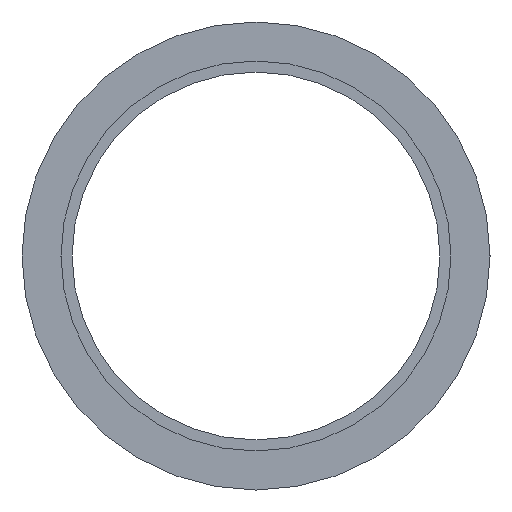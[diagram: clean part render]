
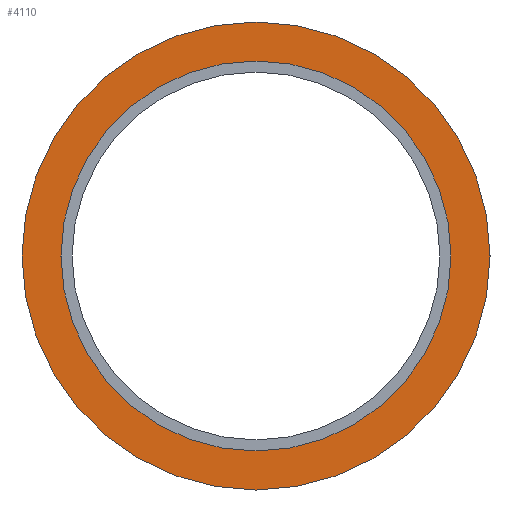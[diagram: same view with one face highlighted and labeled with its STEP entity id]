
A CAD part, left-side view. The second image highlights one B-rep face of the part: STEP entity #4110.
In plain terms, the highlighted planar face has unit normal (-1, 0, 0).
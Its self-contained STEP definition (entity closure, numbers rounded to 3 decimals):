
#100=CARTESIAN_POINT('',(53.476,18.345,0.));
#110=VERTEX_POINT('',#100);
#290=CARTESIAN_POINT('',(53.476,79.845,0.
));
#300=VERTEX_POINT('',#290);
#330=CARTESIAN_POINT('',(53.476,49.095,0.));
#340=DIRECTION('',(1.,0.,0.));
#350=DIRECTION('',(0.,-1.,0.));
#360=AXIS2_PLACEMENT_3D('',#330,#340,#350);
#370=CIRCLE('',#360,30.75);
#380=EDGE_CURVE('',#300,#110,#370,.T.);
#520=CARTESIAN_POINT('',(53.476,12.195,0.)
);
#530=VERTEX_POINT('',#520);
#710=CARTESIAN_POINT('',(53.476,85.995,0.
));
#720=VERTEX_POINT('',#710);
#750=CARTESIAN_POINT('',(53.476,49.095,0.));
#760=DIRECTION('',(1.,0.,0.));
#770=DIRECTION('',(0.,1.,0.));
#780=AXIS2_PLACEMENT_3D('',#750,#760,#770);
#790=CIRCLE('',#780,36.9);
#800=EDGE_CURVE('',#530,#720,#790,.T.);
#3960=CARTESIAN_POINT('',(53.476,84.945,
0.));
#3970=DIRECTION('',(1.,0.,0.));
#3980=DIRECTION('',(0.,-1.,0.));
#3990=AXIS2_PLACEMENT_3D('',#3960,#3970,#3980);
#4000=PLANE('',#3990);
#4010=EDGE_CURVE('',#110,#300,#370,.T.);
#4020=ORIENTED_EDGE('',*,*,#4010,.T.);
#4030=ORIENTED_EDGE('',*,*,#380,.T.);
#4040=EDGE_LOOP('',(#4030,#4020));
#4050=FACE_BOUND('',#4040,.T.);
#4060=EDGE_CURVE('',#720,#530,#790,.T.);
#4070=ORIENTED_EDGE('',*,*,#4060,.F.);
#4080=ORIENTED_EDGE('',*,*,#800,.F.);
#4090=EDGE_LOOP('',(#4080,#4070));
#4100=FACE_OUTER_BOUND('',#4090,.T.);
#4110=ADVANCED_FACE('',(#4050,#4100),#4000,.F.);
